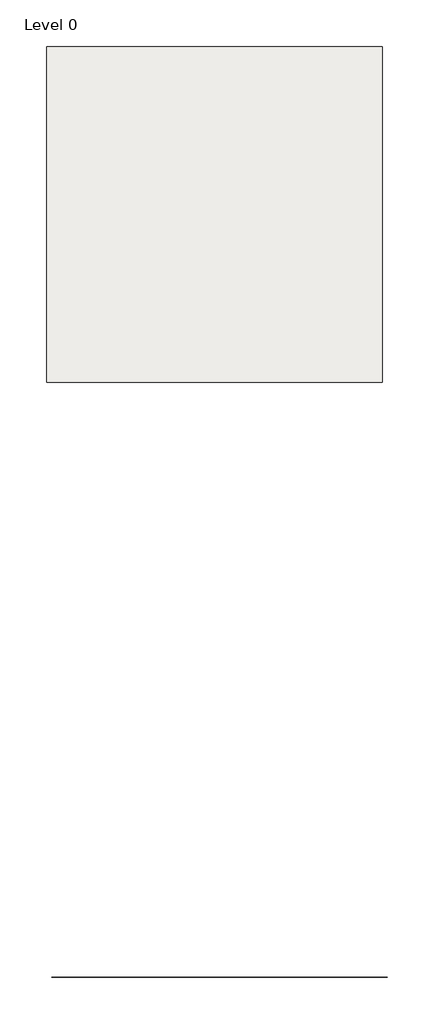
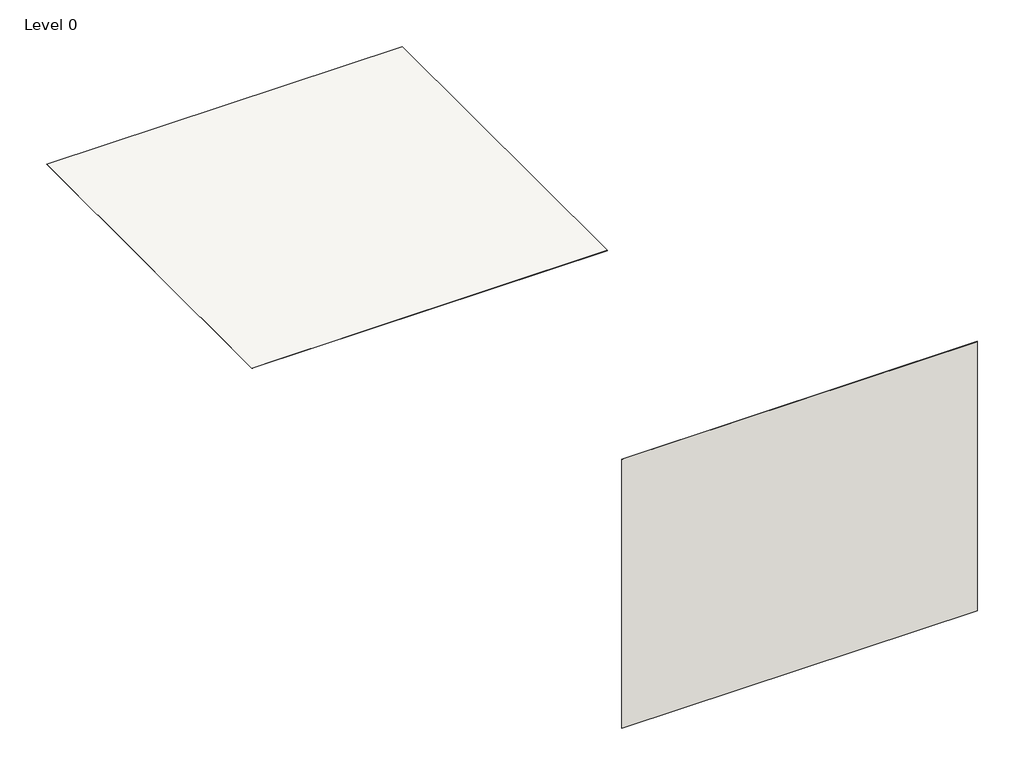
# One storey: 1 slab, 1 wall.
"""IFC4 building model written with IfcOpenShell, lengths in millimetres."""

from ifc_helpers import new_model, si_unit, frame, origin, origin_with_axes, place, context, project, spatial, polyline, outline, extrude, element, save

model = new_model("IFC4")

# Units and contexts
model_context = context("Model", 3, world=origin())
ifc_project = project(units=[si_unit("LENGTHUNIT", "METRE", prefix="MILLI")], contexts=[model_context])

# Site, building, storey
site = spatial("IfcSite", under=ifc_project)
building = spatial("IfcBuilding", under=site)
storey = spatial("IfcBuildingStorey", under=building, Name="Level 0", Elevation=0.0)

# Slab
placement = place(None, origin())
element("IfcSlab", 1, ObjectType="NBS_DeltaMembraneSystemsLtd_ConstructionJointSealants_KosterKB-Flex200", at=placement, inside=storey, context=model_context, shape_type="SweptSolid", body=[
    extrude(outline(polyline([(1524.0, -5624.0), (1524.0, -3124.0), (4024.0, -3124.0), (4024.0, -5624.0), (1524.0, -5624.0)])), frame((0.0, 0.0, -0.8), z_axis=(0.0, 0.0, 1.0), x_axis=(1.0, 0.0, 0.0)), (0.0, 0.0, 1.0), 0.8),
])

# Wall
element("IfcWall", 2, ObjectType="NBS_DeltaMembraneSystemsLtd_ConstructionJointSealants_KosterKB-Flex200", at=placement, inside=storey, context=model_context, shape_type="SweptSolid", body=[
    extrude(outline(polyline([(1564.1482729, -10060.3685589), (4064.1482729, -10060.3685589), (4064.1482729, -10061.1685589), (1564.1482729, -10061.1685589), (1564.1482729, -10060.3685589)])), origin_with_axes(), (0.0, 0.0, 1.0), 2000.0),
])

save(model, "model.ifc")
